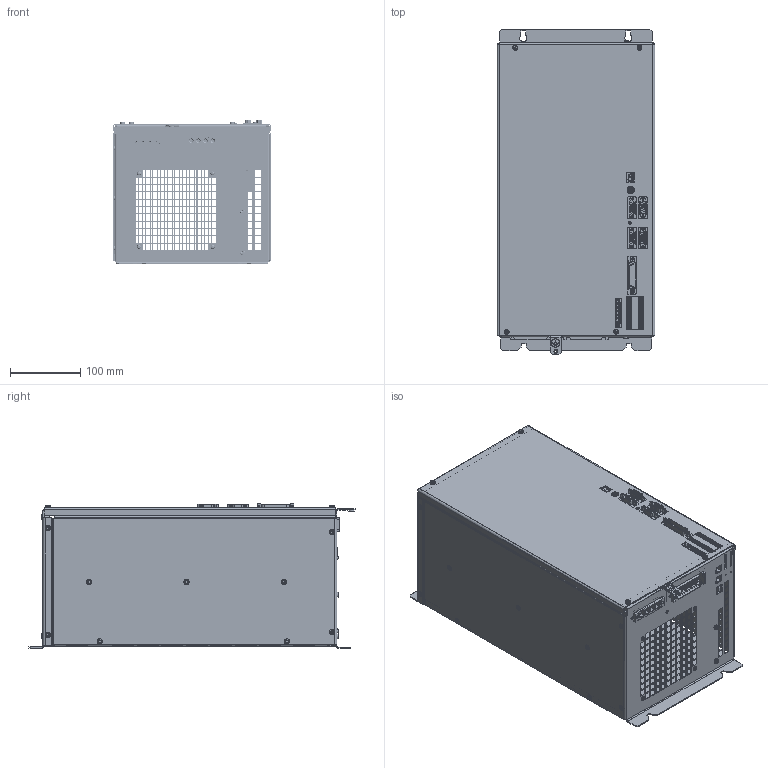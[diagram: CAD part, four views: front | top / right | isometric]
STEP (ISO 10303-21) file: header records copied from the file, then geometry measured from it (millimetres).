
FILE_DESCRIPTION (( 'STEP AP214' ), '1' );
FILE_NAME ('0362146xx.STEP', '2017-01-09T14:37:11', ( '' ), ( '' ), 'SwSTEP 2.0', 'SolidWorks 2015', '' );
FILE_SCHEMA (( 'AUTOMOTIVE_DESIGN' ));
Length unit declared in the file: millimetre
Products named in the file (29): 40550101; 32033700; 42601420; 40528108_DIN 7991 - M4 x 6; 42601621; 320332532; 12520230; 32015808; 1823655; 40550103; 32022606; 42601423; TOTX141PL-BU-Grau; TOTX141PL-BU; 42601422; 33260325; 32015302; 036210024_2; 40590800; SUB25SW_320332532; 32015806; F094401; socket thin pilot cap screw_din_DIN 6912 - M4 x 10 --- 6.5N; 0362146xx
Assembly tree (65 placements, depth 3):
  0362146xx
    1823655
    42601621
      42601621
      40550101  x2
    42601422
      42601422
      40550101  x2
    42601423
      42601423
      40550101  x7
    42601420
      42601420
      40550101  x4
    F094401
      F094401
      40550103
    036210024_2
      SUB25SW_320332532
      32033700  x2
      320332532
      32015302
      33260325
      TOTX141PL-BU
      TOTX141PL-BU-Grau
      32022606
      12520230
    32015808
    32015806
    socket thin pilot cap screw_din_DIN 6912 - M4 x 10 --- 6.5N  x8
    40528108_DIN 7991 - M4 x 6  x13
    40590800  x4
Bounding box: 225.66 x 465.7 x 205.88 mm (x, y, z)
Volume: 742952.1 mm3; surface area: 971533.1 mm2
Topology: 54 solids, 64 shells, 8428 faces, 22053 edges, 14194 vertices
Faces by surface type: plane 6094, cylinder 1560, cone 457, bspline 211, torus 106
Entity records: 267688 total; most frequent: CARTESIAN_POINT 45040, ORIENTED_EDGE 36536, DIRECTION 33402, EDGE_CURVE 18268, LINE 14902, VECTOR 14902, VERTEX_POINT 11905, AXIS2_PLACEMENT_3D 9250
